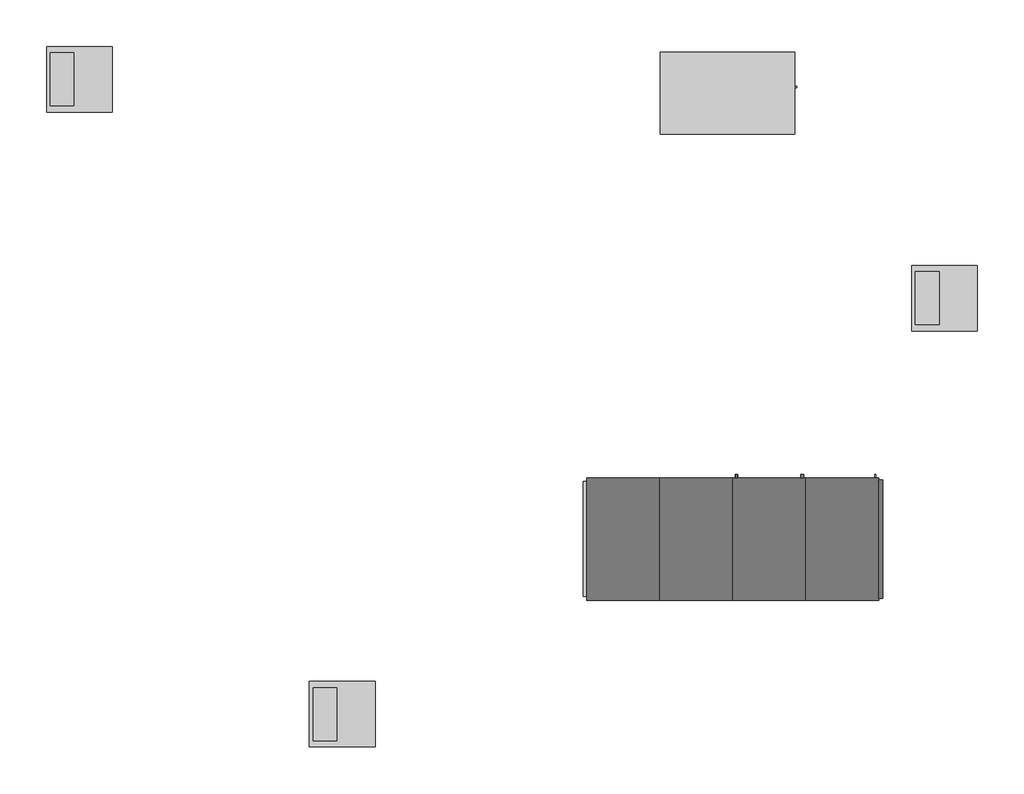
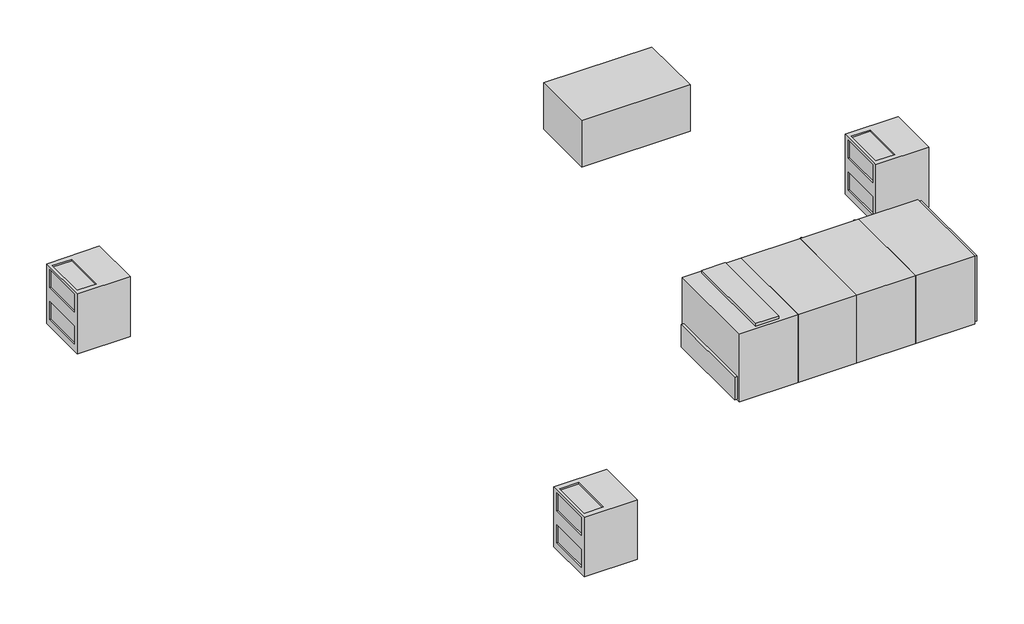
# One storey, incomplete: 5 proxies.
"""IFC4 building model written with IfcOpenShell, lengths in millimetres."""

from ifc_helpers import new_model, si_unit, origin, place, context, project, spatial, transform, mapped, element, save
from components import outdoor_ahu_horizontal_12_square_feet_of_coil_fc6a1677, rooftop_ac_unit_3_12_5_tons_bottom_connection_5_ton_91a4ad55, rooftop_ahu_mixing_box_filter_1500_cfm_dea60fe3

model = new_model("IFC4")

# Units and contexts
model_context = context("Model", 3, world=origin())
ifc_project = project(units=[si_unit("LENGTHUNIT", "METRE", prefix="MILLI")], contexts=[model_context])

# Site, building, storey
site = spatial("IfcSite", under=ifc_project)
building = spatial("IfcBuilding", under=site)
storey = spatial("IfcBuildingStorey", under=building, Name="T.O. PARAPET", Elevation=39014.4)

# Proxies
placement = place(None, origin())
outdoor_ahu_horizontal_12_square_feet_of_coil_shape = outdoor_ahu_horizontal_12_square_feet_of_coil_fc6a1677(model_context)
element("IfcBuildingElementProxy", 1, Name="Outdoor AHU - Horizontal : 12 Square Feet of Coil", ObjectType="Outdoor AHU - Horizontal : 12 Square Feet of Coil", at=placement, inside=storey, context=model_context, shape_type="MappedRepresentation", body=[
    mapped(outdoor_ahu_horizontal_12_square_feet_of_coil_shape, transform((-6105.635253, 397.0010405, 39014.4), x_axis=(1.0, 0.0, 0.0), y_axis=(0.0, 1.0, 0.0), z_axis=(0.0, 0.0, 1.0))),
])
rooftop_ac_unit_3_12_5_tons_bottom_connection_5_ton_shape = rooftop_ac_unit_3_12_5_tons_bottom_connection_5_ton_91a4ad55(model_context)
element("IfcBuildingElementProxy", 2, Name="Rooftop AC Unit - 3-12.5 Tons - Bottom Connection : 5 Ton", ObjectType="Rooftop AC Unit - 3-12.5 Tons - Bottom Connection : 5 Ton", at=placement, inside=storey, context=model_context, shape_type="MappedRepresentation", body=[
    mapped(rooftop_ac_unit_3_12_5_tons_bottom_connection_5_ton_shape, transform((-3210.035253, 6035.8010405, 39014.4), x_axis=(1.0, 0.0, 0.0), y_axis=(0.0, 1.0, 0.0), z_axis=(0.0, 0.0, 1.0))),
])
rooftop_ahu_mixing_box_filter_1500_cfm_shape = rooftop_ahu_mixing_box_filter_1500_cfm_dea60fe3(model_context)
element("IfcBuildingElementProxy", 3, Name="Rooftop AHU Mixing Box : Filter - 1500 CFM", ObjectType="Rooftop AHU Mixing Box : Filter - 1500 CFM", at=placement, inside=storey, context=model_context, shape_type="MappedRepresentation", body=[
    mapped(rooftop_ahu_mixing_box_filter_1500_cfm_shape, transform((-496.204003, 3454.5260405, 38404.8), x_axis=(1.0, 0.0, 0.0), y_axis=(0.0, 1.0, 0.0), z_axis=(0.0, 0.0, 1.0))),
])
element("IfcBuildingElementProxy", 4, Name="Rooftop AHU Mixing Box : Filter - 1500 CFM", ObjectType="Rooftop AHU Mixing Box : Filter - 1500 CFM", at=placement, inside=storey, context=model_context, shape_type="MappedRepresentation", body=[
    mapped(rooftop_ahu_mixing_box_filter_1500_cfm_shape, transform((-8878.204003, -2336.6739595, 38404.8), x_axis=(1.0, 0.0, 0.0), y_axis=(0.0, 1.0, 0.0), z_axis=(0.0, 0.0, 1.0))),
])
element("IfcBuildingElementProxy", 5, Name="Rooftop AHU Mixing Box : Filter - 1500 CFM", ObjectType="Rooftop AHU Mixing Box : Filter - 1500 CFM", at=placement, inside=storey, context=model_context, shape_type="MappedRepresentation", body=[
    mapped(rooftop_ahu_mixing_box_filter_1500_cfm_shape, transform((-12535.804003, 6502.5260405, 38404.8), x_axis=(1.0, 0.0, 0.0), y_axis=(0.0, 1.0, 0.0), z_axis=(0.0, 0.0, 1.0))),
])

save(model, "model.ifc")
